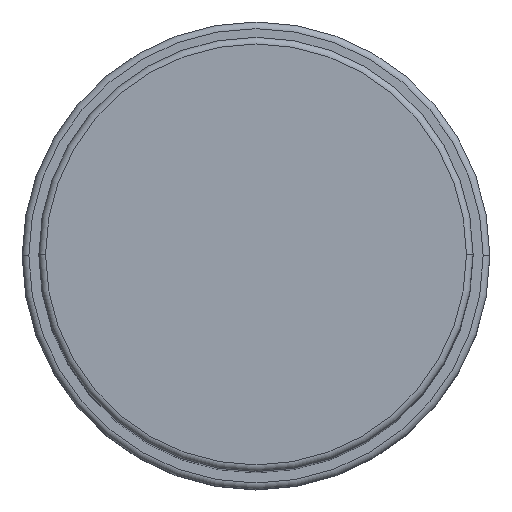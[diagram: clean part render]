
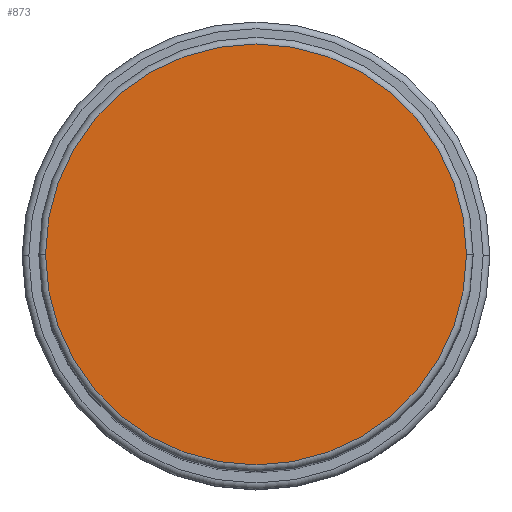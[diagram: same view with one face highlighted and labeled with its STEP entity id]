
A CAD part, top view. The second image highlights one B-rep face of the part: STEP entity #873.
In plain terms, the highlighted planar face has unit normal (0, 0, 1).
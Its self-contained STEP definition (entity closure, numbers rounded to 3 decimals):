
#46 = AXIS2_PLACEMENT_3D ( 'NONE', #373, #1430, #964 ) ;
#82 = EDGE_CURVE ( 'NONE', #1371, #522, #625, .T. ) ;
#201 = ORIENTED_EDGE ( 'NONE', *, *, #82, .T. ) ;
#287 = EDGE_CURVE ( 'NONE', #522, #1371, #490, .T. ) ;
#373 = CARTESIAN_POINT ( 'NONE',  ( 0., 0., 133. ) ) ;
#411 = CARTESIAN_POINT ( 'NONE',  ( 0., 0., 133. ) ) ;
#490 = CIRCLE ( 'NONE', #1275, 31.5 ) ;
#522 = VERTEX_POINT ( 'NONE', #1689 ) ;
#555 = DIRECTION ( 'NONE',  ( 0., 0., 1. ) ) ;
#625 = CIRCLE ( 'NONE', #46, 31.5 ) ;
#714 = DIRECTION ( 'NONE',  ( 1., 0., 0. ) ) ;
#744 = DIRECTION ( 'NONE',  ( 1., 0., 0. ) ) ;
#873 = ADVANCED_FACE ( 'NONE', ( #963 ), #1656, .T. ) ;
#885 = DIRECTION ( 'NONE',  ( 0., 0., 1. ) ) ;
#957 = CARTESIAN_POINT ( 'NONE',  ( 31.5, 0., 133. ) ) ;
#963 = FACE_OUTER_BOUND ( 'NONE', #1372, .T. ) ;
#964 = DIRECTION ( 'NONE',  ( 1., 0., 0. ) ) ;
#997 = ORIENTED_EDGE ( 'NONE', *, *, #287, .T. ) ;
#1275 = AXIS2_PLACEMENT_3D ( 'NONE', #411, #555, #714 ) ;
#1371 = VERTEX_POINT ( 'NONE', #957 ) ;
#1372 = EDGE_LOOP ( 'NONE', ( #201, #997 ) ) ;
#1430 = DIRECTION ( 'NONE',  ( 0., 0., 1. ) ) ;
#1656 = PLANE ( 'NONE',  #1932 ) ;
#1689 = CARTESIAN_POINT ( 'NONE',  ( -31.5, 0., 133. ) ) ;
#1818 = CARTESIAN_POINT ( 'NONE',  ( 0., 0., 133. ) ) ;
#1932 = AXIS2_PLACEMENT_3D ( 'NONE', #1818, #885, #744 ) ;
